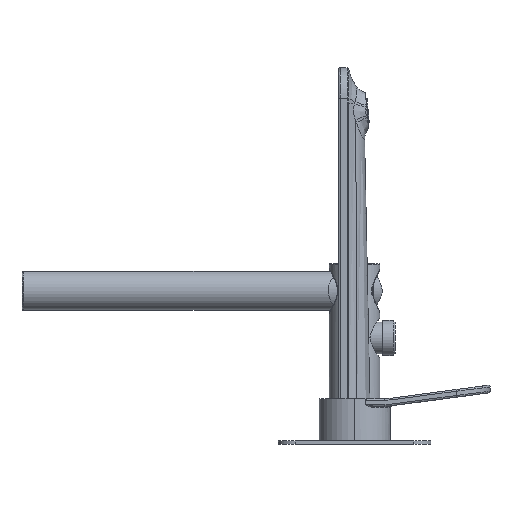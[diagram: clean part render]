
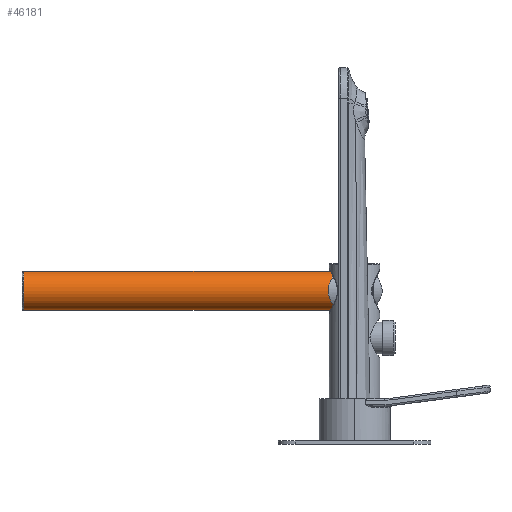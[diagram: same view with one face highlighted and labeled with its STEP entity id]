
A CAD part, left-side view. The second image highlights one B-rep face of the part: STEP entity #46181.
In plain terms, the highlighted cylindrical face has radius 11.5 mm (diameter 23 mm), a partial arc.
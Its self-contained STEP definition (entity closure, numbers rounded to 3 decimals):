
#45 = AXIS2_PLACEMENT_3D ( 'NONE', #21190, #26381, #20546 ) ;
#2872 = CARTESIAN_POINT ( 'NONE',  ( 310.5, 57.023, 102.2 ) ) ;
#4063 = VERTEX_POINT ( 'NONE', #2872 ) ;
#4589 = CIRCLE ( 'NONE', #11798, 11.5 ) ;
#4701 = VERTEX_POINT ( 'NONE', #60387 ) ;
#4919 = VERTEX_POINT ( 'NONE', #31014 ) ;
#7042 = DIRECTION ( 'NONE',  ( 0., -1., 0. ) ) ;
#7632 = DIRECTION ( 'NONE',  ( 0., 1., 0. ) ) ;
#8523 = ORIENTED_EDGE ( 'NONE', *, *, #38808, .T. ) ;
#11798 = AXIS2_PLACEMENT_3D ( 'NONE', #56895, #55623, #12707 ) ;
#12707 = DIRECTION ( 'NONE',  ( 0., 0., 1. ) ) ;
#15361 = CYLINDRICAL_SURFACE ( 'NONE', #45, 11.5 ) ;
#15496 = EDGE_LOOP ( 'NONE', ( #18180, #22900, #8523, #19862 ) ) ;
#18180 = ORIENTED_EDGE ( 'NONE', *, *, #24043, .F. ) ;
#19862 = ORIENTED_EDGE ( 'NONE', *, *, #34826, .T. ) ;
#20546 = DIRECTION ( 'NONE',  ( 0., 0., 1. ) ) ;
#20794 = VERTEX_POINT ( 'NONE', #22113 ) ;
#21190 = CARTESIAN_POINT ( 'NONE',  ( 310.5, 194.523, 90.7 ) ) ;
#21278 = CARTESIAN_POINT ( 'NONE',  ( 310.5, 240.523, 90.7 ) ) ;
#22113 = CARTESIAN_POINT ( 'NONE',  ( 310.5, 57.023, 79.2 ) ) ;
#22900 = ORIENTED_EDGE ( 'NONE', *, *, #48716, .T. ) ;
#24043 = EDGE_CURVE ( 'NONE', #20794, #4919, #36711, .T. ) ;
#25058 = FACE_OUTER_BOUND ( 'NONE', #15496, .T. ) ;
#26381 = DIRECTION ( 'NONE',  ( 0., 1., 0. ) ) ;
#31014 = CARTESIAN_POINT ( 'NONE',  ( 310.5, 240.523, 79.2 ) ) ;
#31294 = DIRECTION ( 'NONE',  ( 0., 0., 1. ) ) ;
#34826 = EDGE_CURVE ( 'NONE', #4701, #4919, #61556, .T. ) ;
#35003 = DIRECTION ( 'NONE',  ( 0., 1., 0. ) ) ;
#35313 = LINE ( 'NONE', #55001, #46957 ) ;
#36711 = LINE ( 'NONE', #57316, #52376 ) ;
#38808 = EDGE_CURVE ( 'NONE', #4063, #4701, #35313, .T. ) ;
#40901 = AXIS2_PLACEMENT_3D ( 'NONE', #21278, #7042, #31294 ) ;
#46181 = ADVANCED_FACE ( 'NONE', ( #25058 ), #15361, .T. ) ;
#46957 = VECTOR ( 'NONE', #35003, 1000. ) ;
#48716 = EDGE_CURVE ( 'NONE', #20794, #4063, #4589, .T. ) ;
#52376 = VECTOR ( 'NONE', #7632, 1000. ) ;
#55001 = CARTESIAN_POINT ( 'NONE',  ( 310.5, 194.523, 102.2 ) ) ;
#55623 = DIRECTION ( 'NONE',  ( 0., 1., 0. ) ) ;
#56895 = CARTESIAN_POINT ( 'NONE',  ( 310.5, 57.023, 90.7 ) ) ;
#57316 = CARTESIAN_POINT ( 'NONE',  ( 310.5, 194.523, 79.2 ) ) ;
#60387 = CARTESIAN_POINT ( 'NONE',  ( 310.5, 240.523, 102.2 ) ) ;
#61556 = CIRCLE ( 'NONE', #40901, 11.5 ) ;
